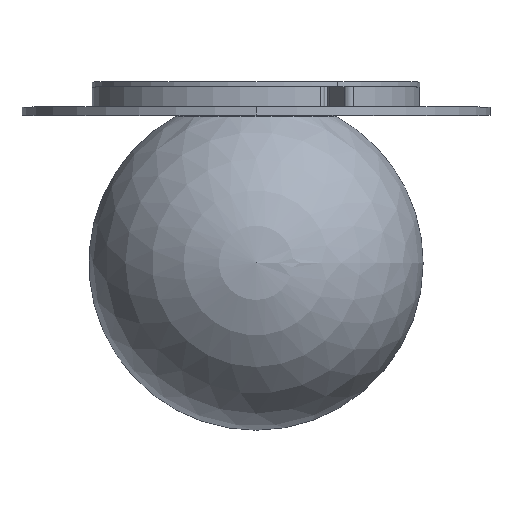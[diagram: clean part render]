
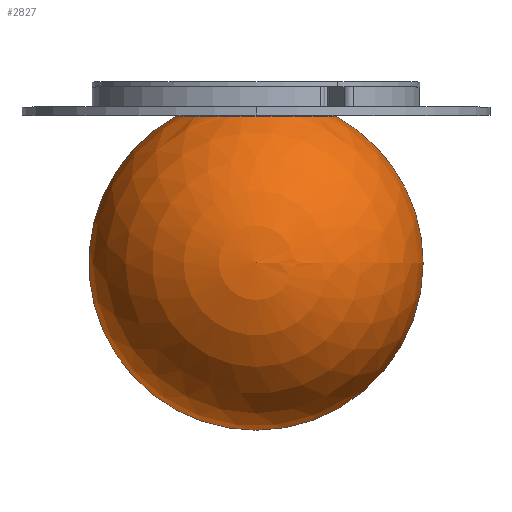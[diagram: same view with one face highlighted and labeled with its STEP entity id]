
A CAD part, top view. The second image highlights one B-rep face of the part: STEP entity #2827.
In plain terms, the highlighted spherical face has radius 50 mm.
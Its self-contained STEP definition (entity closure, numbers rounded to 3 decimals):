
#50 = ORIENTED_EDGE ( 'NONE', *, *, #1564, .T. ) ;
#88 = AXIS2_PLACEMENT_3D ( 'NONE', #3575, #2665, #138 ) ;
#92 = AXIS2_PLACEMENT_3D ( 'NONE', #2469, #1219, #3732 ) ;
#138 = DIRECTION ( 'NONE',  ( -1., 0., 0. ) ) ;
#202 = VERTEX_POINT ( 'NONE', #2138 ) ;
#413 = CIRCLE ( 'NONE', #88, 50. ) ;
#427 = DIRECTION ( 'NONE',  ( 0., 0., -1. ) ) ;
#474 = CIRCLE ( 'NONE', #92, 50. ) ;
#558 = EDGE_LOOP ( 'NONE', ( #2093, #50, #1834 ) ) ;
#1000 = AXIS2_PLACEMENT_3D ( 'NONE', #2461, #3364, #3724 ) ;
#1219 = DIRECTION ( 'NONE',  ( 0., 0., 1. ) ) ;
#1314 = FACE_OUTER_BOUND ( 'NONE', #558, .T. ) ;
#1394 = CIRCLE ( 'NONE', #1000, 24. ) ;
#1564 = EDGE_CURVE ( 'NONE', #202, #2559, #474, .T. ) ;
#1752 = VERTEX_POINT ( 'NONE', #3901 ) ;
#1834 = ORIENTED_EDGE ( 'NONE', *, *, #2042, .F. ) ;
#1912 = CARTESIAN_POINT ( 'NONE',  ( 0., 0., 0. ) ) ;
#2042 = EDGE_CURVE ( 'NONE', #1752, #2559, #1394, .T. ) ;
#2093 = ORIENTED_EDGE ( 'NONE', *, *, #3791, .F. ) ;
#2138 = CARTESIAN_POINT ( 'NONE',  ( 0., -50., 0. ) ) ;
#2461 = CARTESIAN_POINT ( 'NONE',  ( 0., 43.863, 0. ) ) ;
#2469 = CARTESIAN_POINT ( 'NONE',  ( 0., 0., 0. ) ) ;
#2559 = VERTEX_POINT ( 'NONE', #2975 ) ;
#2665 = DIRECTION ( 'NONE',  ( 0., 0., -1. ) ) ;
#2827 = ADVANCED_FACE ( 'NONE', ( #1314 ), #3231, .T. ) ;
#2975 = CARTESIAN_POINT ( 'NONE',  ( 24., 43.863, 0. ) ) ;
#3231 = SPHERICAL_SURFACE ( 'NONE', #3323, 50. ) ;
#3323 = AXIS2_PLACEMENT_3D ( 'NONE', #1912, #427, #3868 ) ;
#3364 = DIRECTION ( 'NONE',  ( 0., 1., 0. ) ) ;
#3575 = CARTESIAN_POINT ( 'NONE',  ( 0., 0., 0. ) ) ;
#3724 = DIRECTION ( 'NONE',  ( -1., 0., 0. ) ) ;
#3732 = DIRECTION ( 'NONE',  ( 1., 0., 0. ) ) ;
#3791 = EDGE_CURVE ( 'NONE', #202, #1752, #413, .T. ) ;
#3868 = DIRECTION ( 'NONE',  ( 1., 0., 0. ) ) ;
#3901 = CARTESIAN_POINT ( 'NONE',  ( -24., 43.863, 0. ) ) ;
